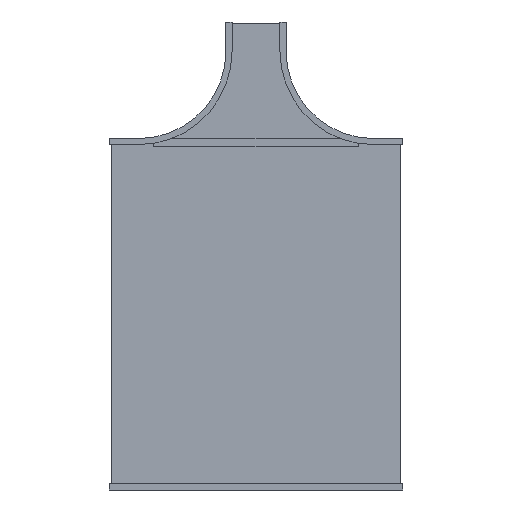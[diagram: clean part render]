
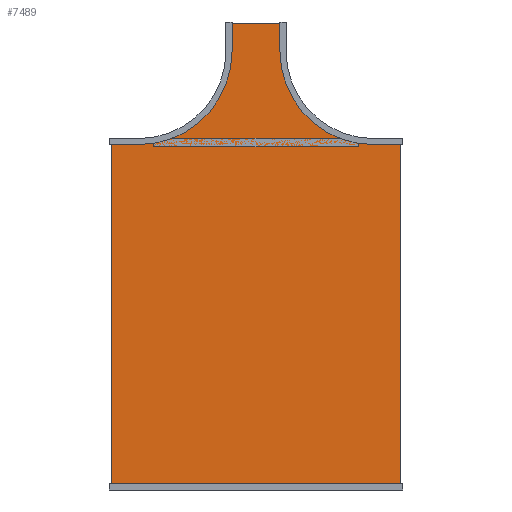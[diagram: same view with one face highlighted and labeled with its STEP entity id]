
A CAD part, front view. The second image highlights one B-rep face of the part: STEP entity #7489.
In plain terms, the highlighted planar face has unit normal (0, -1, 0).
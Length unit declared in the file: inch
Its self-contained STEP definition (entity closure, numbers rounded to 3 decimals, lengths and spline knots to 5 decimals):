
#7298=DIRECTION('',(1.,0.,0.));
#7299=VECTOR('',#7298,5.875);
#7300=CARTESIAN_POINT('',(-2.9375,0.,0.));
#7301=LINE('',#7300,#7299);
#7302=DIRECTION('',(0.,0.,-1.));
#7303=VECTOR('',#7302,2.875);
#7304=CARTESIAN_POINT('',(2.9375,0.,0.));
#7305=LINE('',#7304,#7303);
#7306=CARTESIAN_POINT('',(12.,0.,-2.875));
#7307=DIRECTION('',(0.,-1.,0.));
#7308=DIRECTION('',(-1.,0.,0.));
#7309=AXIS2_PLACEMENT_3D('',#7306,#7307,#7308);
#7311=DIRECTION('',(1.,0.,0.));
#7312=VECTOR('',#7311,2.875);
#7313=CARTESIAN_POINT('',(12.,0.,-11.9375));
#7314=LINE('',#7313,#7312);
#7315=DIRECTION('',(0.,0.,-1.));
#7316=VECTOR('',#7315,35.875);
#7317=CARTESIAN_POINT('',(14.875,0.,-11.9375));
#7318=LINE('',#7317,#7316);
#7319=DIRECTION('',(-1.,0.,0.));
#7320=VECTOR('',#7319,29.75);
#7321=CARTESIAN_POINT('',(14.875,0.,-47.8125));
#7322=LINE('',#7321,#7320);
#7323=DIRECTION('',(0.,0.,1.));
#7324=VECTOR('',#7323,35.875);
#7325=CARTESIAN_POINT('',(-14.875,0.,-47.8125));
#7326=LINE('',#7325,#7324);
#7327=DIRECTION('',(1.,0.,0.));
#7328=VECTOR('',#7327,2.875);
#7329=CARTESIAN_POINT('',(-14.875,0.,-11.9375));
#7330=LINE('',#7329,#7328);
#7331=CARTESIAN_POINT('',(-12.,0.,-2.875));
#7332=DIRECTION('',(0.,-1.,0.));
#7333=DIRECTION('',(0.,0.,-1.));
#7334=AXIS2_PLACEMENT_3D('',#7331,#7332,#7333);
#7336=DIRECTION('',(0.,0.,1.));
#7337=VECTOR('',#7336,2.875);
#7338=CARTESIAN_POINT('',(-2.9375,0.,-2.875));
#7339=LINE('',#7338,#7337);
#7422=CARTESIAN_POINT('',(-2.9375,0.,0.));
#7423=CARTESIAN_POINT('',(2.9375,0.,0.));
#7424=VERTEX_POINT('',#7422);
#7425=VERTEX_POINT('',#7423);
#7426=CARTESIAN_POINT('',(2.9375,0.,-2.875));
#7427=VERTEX_POINT('',#7426);
#7428=CARTESIAN_POINT('',(12.,0.,-11.9375));
#7429=VERTEX_POINT('',#7428);
#7430=CARTESIAN_POINT('',(14.875,0.,-11.9375));
#7431=VERTEX_POINT('',#7430);
#7432=CARTESIAN_POINT('',(14.875,0.,-47.8125));
#7433=VERTEX_POINT('',#7432);
#7434=CARTESIAN_POINT('',(-14.875,0.,-47.8125));
#7435=VERTEX_POINT('',#7434);
#7436=CARTESIAN_POINT('',(-14.875,0.,-11.9375));
#7437=VERTEX_POINT('',#7436);
#7438=CARTESIAN_POINT('',(-12.,0.,-11.9375));
#7439=VERTEX_POINT('',#7438);
#7440=CARTESIAN_POINT('',(-2.9375,0.,-2.875));
#7441=VERTEX_POINT('',#7440);
#7462=CARTESIAN_POINT('',(0.,0.,0.));
#7463=DIRECTION('',(0.,1.,0.));
#7464=DIRECTION('',(1.,0.,0.));
#7465=AXIS2_PLACEMENT_3D('',#7462,#7463,#7464);
#7466=PLANE('',#7465);
#7468=ORIENTED_EDGE('',*,*,#7467,.T.);
#7470=ORIENTED_EDGE('',*,*,#7469,.T.);
#7472=ORIENTED_EDGE('',*,*,#7471,.T.);
#7474=ORIENTED_EDGE('',*,*,#7473,.T.);
#7476=ORIENTED_EDGE('',*,*,#7475,.T.);
#7478=ORIENTED_EDGE('',*,*,#7477,.T.);
#7480=ORIENTED_EDGE('',*,*,#7479,.T.);
#7482=ORIENTED_EDGE('',*,*,#7481,.T.);
#7484=ORIENTED_EDGE('',*,*,#7483,.T.);
#7486=ORIENTED_EDGE('',*,*,#7485,.T.);
#7487=EDGE_LOOP('',(#7468,#7470,#7472,#7474,#7476,#7478,#7480,#7482,#7484,
#7486));
#7488=FACE_OUTER_BOUND('',#7487,.F.);
#7489=ADVANCED_FACE('',(#7488),#7466,.F.);
#7310=CIRCLE('',#7309,9.0625);
#7335=CIRCLE('',#7334,9.0625);
#7467=EDGE_CURVE('',#7424,#7425,#7301,.T.);
#7469=EDGE_CURVE('',#7425,#7427,#7305,.T.);
#7471=EDGE_CURVE('',#7427,#7429,#7310,.T.);
#7473=EDGE_CURVE('',#7429,#7431,#7314,.T.);
#7475=EDGE_CURVE('',#7431,#7433,#7318,.T.);
#7477=EDGE_CURVE('',#7433,#7435,#7322,.T.);
#7479=EDGE_CURVE('',#7435,#7437,#7326,.T.);
#7481=EDGE_CURVE('',#7437,#7439,#7330,.T.);
#7483=EDGE_CURVE('',#7439,#7441,#7335,.T.);
#7485=EDGE_CURVE('',#7441,#7424,#7339,.T.);
